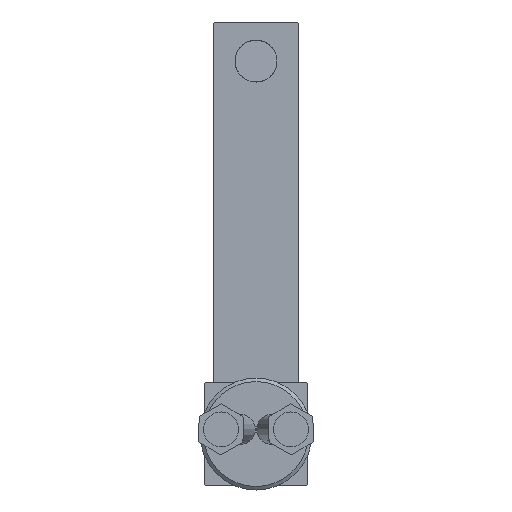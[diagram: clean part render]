
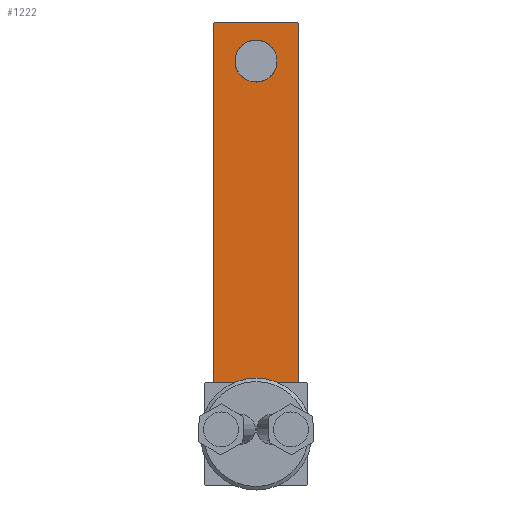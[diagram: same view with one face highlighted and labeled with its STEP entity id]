
A CAD part, front view. The second image highlights one B-rep face of the part: STEP entity #1222.
In plain terms, the highlighted planar face has unit normal (0, -1, 0).
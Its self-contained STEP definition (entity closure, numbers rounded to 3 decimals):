
#30=FACE_BOUND('',#246,.T.);
#44=PLANE('',#1334);
#169=FACE_OUTER_BOUND('',#245,.T.);
#245=EDGE_LOOP('',(#910,#911,#912,#913,#914,#915));
#246=EDGE_LOOP('',(#916));
#340=LINE('',#1860,#448);
#343=LINE('',#1866,#451);
#344=LINE('',#1868,#452);
#345=LINE('',#1870,#453);
#448=VECTOR('',#1500,10.);
#451=VECTOR('',#1505,10.);
#452=VECTOR('',#1506,10.);
#453=VECTOR('',#1507,10.);
#544=CIRCLE('',#1332,1.);
#545=CIRCLE('',#1335,1.);
#546=CIRCLE('',#1336,9.);
#609=VERTEX_POINT('',#1853);
#610=VERTEX_POINT('',#1855);
#611=VERTEX_POINT('',#1859);
#613=VERTEX_POINT('',#1865);
#614=VERTEX_POINT('',#1867);
#615=VERTEX_POINT('',#1869);
#616=VERTEX_POINT('',#1872);
#726=EDGE_CURVE('',#609,#610,#544,.T.);
#728=EDGE_CURVE('',#610,#611,#340,.T.);
#731=EDGE_CURVE('',#613,#609,#343,.T.);
#732=EDGE_CURVE('',#614,#613,#344,.T.);
#733=EDGE_CURVE('',#615,#614,#345,.T.);
#734=EDGE_CURVE('',#611,#615,#545,.T.);
#735=EDGE_CURVE('',#616,#616,#546,.T.);
#910=ORIENTED_EDGE('',*,*,#726,.F.);
#911=ORIENTED_EDGE('',*,*,#731,.F.);
#912=ORIENTED_EDGE('',*,*,#732,.F.);
#913=ORIENTED_EDGE('',*,*,#733,.F.);
#914=ORIENTED_EDGE('',*,*,#734,.F.);
#915=ORIENTED_EDGE('',*,*,#728,.F.);
#916=ORIENTED_EDGE('',*,*,#735,.T.);
#1222=ADVANCED_FACE('',(#169,#30),#44,.T.);
#1332=AXIS2_PLACEMENT_3D('',#1856,#1495,#1496);
#1334=AXIS2_PLACEMENT_3D('',#1864,#1503,#1504);
#1335=AXIS2_PLACEMENT_3D('',#1871,#1508,#1509);
#1336=AXIS2_PLACEMENT_3D('',#1873,#1510,#1511);
#1495=DIRECTION('center_axis',(0.,1.,0.));
#1496=DIRECTION('ref_axis',(-0.707,0.,0.707));
#1500=DIRECTION('',(1.,0.,0.));
#1503=DIRECTION('center_axis',(0.,-1.,0.));
#1504=DIRECTION('ref_axis',(0.,0.,-1.));
#1505=DIRECTION('',(0.,0.,1.));
#1506=DIRECTION('',(-1.,0.,0.));
#1507=DIRECTION('',(0.,0.,-1.));
#1508=DIRECTION('center_axis',(0.,1.,0.));
#1509=DIRECTION('ref_axis',(0.707,0.,0.707));
#1510=DIRECTION('center_axis',(0.,1.,0.));
#1511=DIRECTION('ref_axis',(-1.,0.,0.));
#1853=CARTESIAN_POINT('',(-18.15,-16.,175.75));
#1855=CARTESIAN_POINT('',(-17.15,-16.,176.75));
#1856=CARTESIAN_POINT('Origin',(-17.15,-16.,175.75));
#1859=CARTESIAN_POINT('',(17.15,-16.,176.75));
#1860=CARTESIAN_POINT('',(0.,-16.,176.75));
#1864=CARTESIAN_POINT('Origin',(0.,-16.,176.75));
#1865=CARTESIAN_POINT('',(-18.15,-16.,22.25));
#1866=CARTESIAN_POINT('',(-18.15,-16.,176.75));
#1867=CARTESIAN_POINT('',(18.15,-16.,22.25));
#1868=CARTESIAN_POINT('',(0.,-16.,22.25));
#1869=CARTESIAN_POINT('',(18.15,-16.,175.75));
#1870=CARTESIAN_POINT('',(18.15,-16.,176.75));
#1871=CARTESIAN_POINT('Origin',(17.15,-16.,175.75));
#1872=CARTESIAN_POINT('',(9.,-16.,160.));
#1873=CARTESIAN_POINT('Origin',(0.,-16.,160.));
